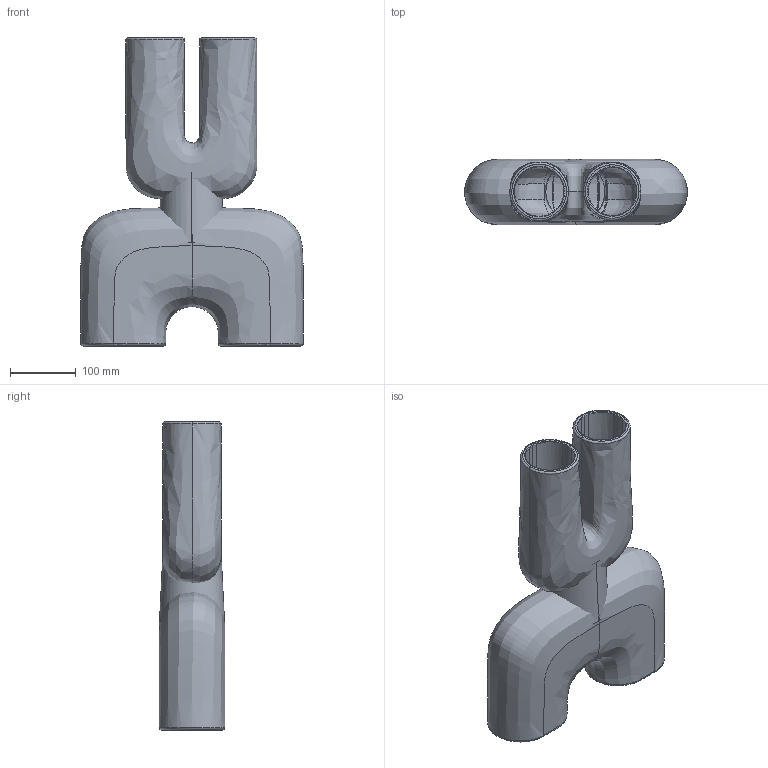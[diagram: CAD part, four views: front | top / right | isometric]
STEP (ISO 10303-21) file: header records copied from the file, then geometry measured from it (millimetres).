
FILE_DESCRIPTION(/* description */ (''),/* implementation_level */ '2;1');
FILE_NAME(/* name */ 'Cobra Double',/* time_stamp */ '2020-07-07T11:15:47+02:00',/* author */ (''),/* organization */ (''),/* preprocessor_version */ 'ST-DEVELOPER v15',/* originating_system */ '',/* authorisation */ '');
FILE_SCHEMA (('AUTOMOTIVE_DESIGN'));
Products named in the file (1): Document
Bounding box: 340.04 x 100 x 469.82 mm (x, y, z)
Volume: 5514218 mm3; surface area: 655690.1 mm2
Topology: 1 solids, 7 shells, 141 faces, 316 edges, 182 vertices
Faces by surface type: bspline 137, plane 4
Entity records: 117409 total; most frequent: CARTESIAN_POINT 115747, ORIENTED_EDGE 596, EDGE_CURVE 312, VERTEX_POINT 175, EDGE_LOOP 143, ADVANCED_FACE 141, FACE_OUTER_BOUND 141, DIRECTION 12
